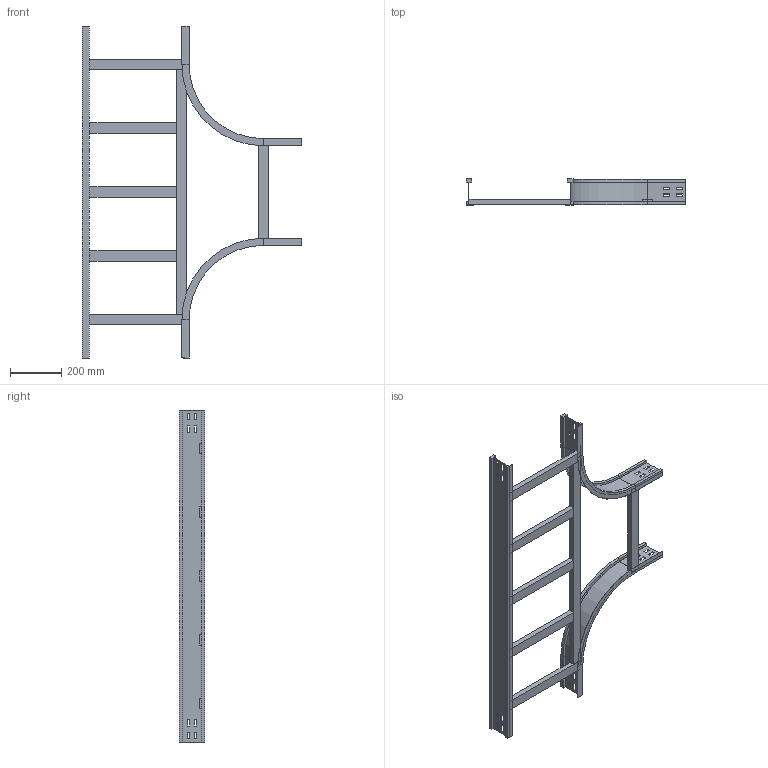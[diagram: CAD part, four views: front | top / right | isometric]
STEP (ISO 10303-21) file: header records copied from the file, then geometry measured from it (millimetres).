
FILE_DESCRIPTION (( 'STEP AP214' ), '1' );
FILE_NAME ('15S3D400.step', '2025-02-21T16:12:26', ( '' ), ( '' ), 'SwSTEP 2.0', 'SolidWorks 2023', '' );
FILE_SCHEMA (( 'AUTOMOTIVE_DESIGN' ));
Length unit declared in the file: millimetre
Products named in the file (6): LONGH.RETT_H100_R300+400; TRAVERSINO_INTERMEDIO_R300+400; TRAVERSINO_LONG._R300+400; 15S3D400; TRAVERSINO_400; LONGH.INTERNO 90°_H100_R300
Assembly tree (10 placements, depth 2):
  15S3D400
    LONGH.INTERNO 90°_H100_R300  x2
    LONGH.RETT_H100_R300+400
    TRAVERSINO_400  x3
    TRAVERSINO_LONG._R300+400
    TRAVERSINO_INTERMEDIO_R300+400  x3
Bounding box: 859 x 100 x 1300 mm (x, y, z)
Volume: 4108612.1 mm3; surface area: 1241463.1 mm2
Topology: 10 solids, 10 shells, 228 faces, 576 edges, 368 vertices
Faces by surface type: plane 216, cylinder 12
Entity records: 4283 total; most frequent: CARTESIAN_POINT 719, ORIENTED_EDGE 696, DIRECTION 654, EDGE_CURVE 348, LINE 336, VECTOR 336, VERTEX_POINT 224, EDGE_LOOP 166
